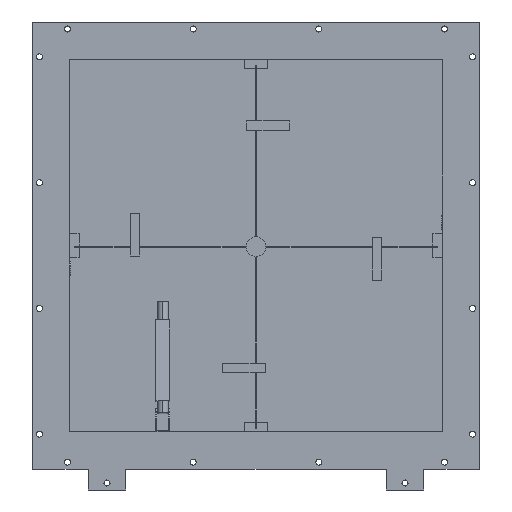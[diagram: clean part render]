
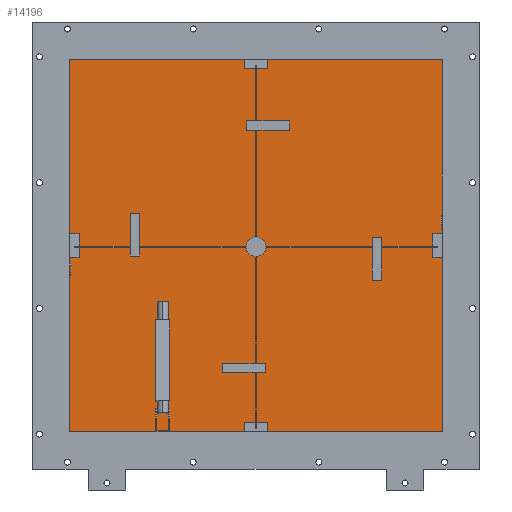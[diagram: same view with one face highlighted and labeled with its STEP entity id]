
A CAD part, front view. The second image highlights one B-rep face of the part: STEP entity #14196.
In plain terms, the highlighted planar face has unit normal (0, -1, 0).
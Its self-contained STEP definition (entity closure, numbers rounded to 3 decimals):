
#2788=DIRECTION('',(0.,0.,-1.));
#2789=VECTOR('',#2788,836.);
#2790=CARTESIAN_POINT('',(418.,70.,415.5));
#2791=LINE('',#2790,#2789);
#2796=CARTESIAN_POINT('',(0.,70.,-2.5));
#2797=DIRECTION('',(0.,1.,0.));
#2798=DIRECTION('',(0.,0.,1.));
#2799=AXIS2_PLACEMENT_3D('',#2796,#2797,#2798);
#2801=CARTESIAN_POINT('',(0.,70.,-2.5));
#2802=DIRECTION('',(0.,1.,0.));
#2803=DIRECTION('',(0.,0.,-1.));
#2804=AXIS2_PLACEMENT_3D('',#2801,#2802,#2803);
#2806=DIRECTION('',(0.,0.,-1.));
#2807=VECTOR('',#2806,92.);
#2808=CARTESIAN_POINT('',(-270.,70.,69.5));
#2809=LINE('',#2808,#2807);
#2810=DIRECTION('',(1.,0.,0.));
#2811=VECTOR('',#2810,20.);
#2812=CARTESIAN_POINT('',(-270.,70.,-22.5));
#2813=LINE('',#2812,#2811);
#2814=DIRECTION('',(0.,0.,1.));
#2815=VECTOR('',#2814,92.);
#2816=CARTESIAN_POINT('',(-250.,70.,-22.5));
#2817=LINE('',#2816,#2815);
#2818=DIRECTION('',(-1.,0.,0.));
#2819=VECTOR('',#2818,20.);
#2820=CARTESIAN_POINT('',(-250.,70.,69.5));
#2821=LINE('',#2820,#2819);
#2822=DIRECTION('',(0.,0.,-1.));
#2823=VECTOR('',#2822,20.);
#2824=CARTESIAN_POINT('',(-20.,70.,267.5));
#2825=LINE('',#2824,#2823);
#2826=DIRECTION('',(1.,0.,0.));
#2827=VECTOR('',#2826,92.);
#2828=CARTESIAN_POINT('',(-20.,70.,247.5));
#2829=LINE('',#2828,#2827);
#2830=DIRECTION('',(0.,0.,1.));
#2831=VECTOR('',#2830,20.);
#2832=CARTESIAN_POINT('',(72.,70.,247.5));
#2833=LINE('',#2832,#2831);
#2834=DIRECTION('',(-1.,0.,0.));
#2835=VECTOR('',#2834,92.);
#2836=CARTESIAN_POINT('',(72.,70.,267.5));
#2837=LINE('',#2836,#2835);
#2838=DIRECTION('',(0.,0.,-1.));
#2839=VECTOR('',#2838,92.);
#2840=CARTESIAN_POINT('',(250.,70.,17.5));
#2841=LINE('',#2840,#2839);
#2842=DIRECTION('',(1.,0.,0.));
#2843=VECTOR('',#2842,20.);
#2844=CARTESIAN_POINT('',(250.,70.,-74.5));
#2845=LINE('',#2844,#2843);
#2846=DIRECTION('',(0.,0.,1.));
#2847=VECTOR('',#2846,92.);
#2848=CARTESIAN_POINT('',(270.,70.,-74.5));
#2849=LINE('',#2848,#2847);
#2850=DIRECTION('',(-1.,0.,0.));
#2851=VECTOR('',#2850,20.);
#2852=CARTESIAN_POINT('',(270.,70.,17.5));
#2853=LINE('',#2852,#2851);
#2854=DIRECTION('',(-1.,0.,0.));
#2855=VECTOR('',#2854,92.);
#2856=CARTESIAN_POINT('',(20.,70.,-252.5));
#2857=LINE('',#2856,#2855);
#2858=DIRECTION('',(0.,0.,-1.));
#2859=VECTOR('',#2858,20.);
#2860=CARTESIAN_POINT('',(-72.,70.,-252.5));
#2861=LINE('',#2860,#2859);
#2862=DIRECTION('',(1.,0.,0.));
#2863=VECTOR('',#2862,92.);
#2864=CARTESIAN_POINT('',(-72.,70.,-272.5));
#2865=LINE('',#2864,#2863);
#2866=DIRECTION('',(0.,0.,1.));
#2867=VECTOR('',#2866,20.);
#2868=CARTESIAN_POINT('',(20.,70.,-272.5));
#2869=LINE('',#2868,#2867);
#2870=DIRECTION('',(-1.,0.,0.));
#2871=VECTOR('',#2870,836.);
#2872=CARTESIAN_POINT('',(418.,70.,-420.5));
#2873=LINE('',#2872,#2871);
#2878=DIRECTION('',(0.,0.,1.));
#2879=VECTOR('',#2878,836.);
#2880=CARTESIAN_POINT('',(-418.,70.,-420.5));
#2881=LINE('',#2880,#2879);
#2886=DIRECTION('',(1.,0.,0.));
#2887=VECTOR('',#2886,836.);
#2888=CARTESIAN_POINT('',(-418.,70.,415.5));
#2889=LINE('',#2888,#2887);
#10246=CARTESIAN_POINT('',(418.,70.,415.5));
#10247=CARTESIAN_POINT('',(418.,70.,-420.5));
#10248=VERTEX_POINT('',#10246);
#10249=VERTEX_POINT('',#10247);
#10250=CARTESIAN_POINT('',(-418.,70.,-420.5));
#10251=VERTEX_POINT('',#10250);
#10252=CARTESIAN_POINT('',(-418.,70.,415.5));
#10253=VERTEX_POINT('',#10252);
#10498=CARTESIAN_POINT('',(0.,70.,18.7));
#10499=CARTESIAN_POINT('',(0.,70.,-23.7));
#10500=VERTEX_POINT('',#10498);
#10501=VERTEX_POINT('',#10499);
#10536=CARTESIAN_POINT('',(-270.,70.,69.5));
#10537=CARTESIAN_POINT('',(-270.,70.,-22.5));
#10538=VERTEX_POINT('',#10536);
#10539=VERTEX_POINT('',#10537);
#10540=CARTESIAN_POINT('',(-250.,70.,-22.5));
#10541=VERTEX_POINT('',#10540);
#10542=CARTESIAN_POINT('',(-250.,70.,69.5));
#10543=VERTEX_POINT('',#10542);
#10544=CARTESIAN_POINT('',(-20.,70.,267.5));
#10545=CARTESIAN_POINT('',(-20.,70.,247.5));
#10546=VERTEX_POINT('',#10544);
#10547=VERTEX_POINT('',#10545);
#10548=CARTESIAN_POINT('',(72.,70.,247.5));
#10549=VERTEX_POINT('',#10548);
#10550=CARTESIAN_POINT('',(72.,70.,267.5));
#10551=VERTEX_POINT('',#10550);
#10552=CARTESIAN_POINT('',(250.,70.,17.5));
#10553=CARTESIAN_POINT('',(250.,70.,-74.5));
#10554=VERTEX_POINT('',#10552);
#10555=VERTEX_POINT('',#10553);
#10556=CARTESIAN_POINT('',(270.,70.,-74.5));
#10557=VERTEX_POINT('',#10556);
#10558=CARTESIAN_POINT('',(270.,70.,17.5));
#10559=VERTEX_POINT('',#10558);
#10560=CARTESIAN_POINT('',(20.,70.,-252.5));
#10561=CARTESIAN_POINT('',(-72.,70.,-252.5));
#10562=VERTEX_POINT('',#10560);
#10563=VERTEX_POINT('',#10561);
#10564=CARTESIAN_POINT('',(-72.,70.,-272.5));
#10565=VERTEX_POINT('',#10564);
#10566=CARTESIAN_POINT('',(20.,70.,-272.5));
#10567=VERTEX_POINT('',#10566);
#14136=CARTESIAN_POINT('',(0.,70.,0.));
#14137=DIRECTION('',(0.,1.,0.));
#14138=DIRECTION('',(0.,0.,-1.));
#14139=AXIS2_PLACEMENT_3D('',#14136,#14137,#14138);
#14140=PLANE('',#14139);
#14141=ORIENTED_EDGE('',*,*,#14126,.T.);
#14143=ORIENTED_EDGE('',*,*,#14142,.T.);
#14145=ORIENTED_EDGE('',*,*,#14144,.T.);
#14147=ORIENTED_EDGE('',*,*,#14146,.T.);
#14148=EDGE_LOOP('',(#14141,#14143,#14145,#14147));
#14149=FACE_OUTER_BOUND('',#14148,.F.);
#14151=ORIENTED_EDGE('',*,*,#14150,.F.);
#14153=ORIENTED_EDGE('',*,*,#14152,.F.);
#14154=EDGE_LOOP('',(#14151,#14153));
#14155=FACE_BOUND('',#14154,.F.);
#14157=ORIENTED_EDGE('',*,*,#14156,.T.);
#14159=ORIENTED_EDGE('',*,*,#14158,.T.);
#14161=ORIENTED_EDGE('',*,*,#14160,.T.);
#14163=ORIENTED_EDGE('',*,*,#14162,.T.);
#14164=EDGE_LOOP('',(#14157,#14159,#14161,#14163));
#14165=FACE_BOUND('',#14164,.F.);
#14167=ORIENTED_EDGE('',*,*,#14166,.T.);
#14169=ORIENTED_EDGE('',*,*,#14168,.T.);
#14171=ORIENTED_EDGE('',*,*,#14170,.T.);
#14173=ORIENTED_EDGE('',*,*,#14172,.T.);
#14174=EDGE_LOOP('',(#14167,#14169,#14171,#14173));
#14175=FACE_BOUND('',#14174,.F.);
#14177=ORIENTED_EDGE('',*,*,#14176,.T.);
#14179=ORIENTED_EDGE('',*,*,#14178,.T.);
#14181=ORIENTED_EDGE('',*,*,#14180,.T.);
#14183=ORIENTED_EDGE('',*,*,#14182,.T.);
#14184=EDGE_LOOP('',(#14177,#14179,#14181,#14183));
#14185=FACE_BOUND('',#14184,.F.);
#14187=ORIENTED_EDGE('',*,*,#14186,.T.);
#14189=ORIENTED_EDGE('',*,*,#14188,.T.);
#14191=ORIENTED_EDGE('',*,*,#14190,.T.);
#14193=ORIENTED_EDGE('',*,*,#14192,.T.);
#14194=EDGE_LOOP('',(#14187,#14189,#14191,#14193));
#14195=FACE_BOUND('',#14194,.F.);
#2800=CIRCLE('',#2799,21.2);
#2805=CIRCLE('',#2804,21.2);
#14126=EDGE_CURVE('',#10248,#10249,#2791,.T.);
#14142=EDGE_CURVE('',#10249,#10251,#2873,.T.);
#14144=EDGE_CURVE('',#10251,#10253,#2881,.T.);
#14146=EDGE_CURVE('',#10253,#10248,#2889,.T.);
#14150=EDGE_CURVE('',#10500,#10501,#2800,.T.);
#14152=EDGE_CURVE('',#10501,#10500,#2805,.T.);
#14156=EDGE_CURVE('',#10538,#10539,#2809,.T.);
#14158=EDGE_CURVE('',#10539,#10541,#2813,.T.);
#14160=EDGE_CURVE('',#10541,#10543,#2817,.T.);
#14162=EDGE_CURVE('',#10543,#10538,#2821,.T.);
#14166=EDGE_CURVE('',#10546,#10547,#2825,.T.);
#14168=EDGE_CURVE('',#10547,#10549,#2829,.T.);
#14170=EDGE_CURVE('',#10549,#10551,#2833,.T.);
#14172=EDGE_CURVE('',#10551,#10546,#2837,.T.);
#14176=EDGE_CURVE('',#10554,#10555,#2841,.T.);
#14178=EDGE_CURVE('',#10555,#10557,#2845,.T.);
#14180=EDGE_CURVE('',#10557,#10559,#2849,.T.);
#14182=EDGE_CURVE('',#10559,#10554,#2853,.T.);
#14186=EDGE_CURVE('',#10562,#10563,#2857,.T.);
#14188=EDGE_CURVE('',#10563,#10565,#2861,.T.);
#14190=EDGE_CURVE('',#10565,#10567,#2865,.T.);
#14192=EDGE_CURVE('',#10567,#10562,#2869,.T.);
#14196=ADVANCED_FACE('',(#14149,#14155,#14165,#14175,#14185,#14195),#14140,.F.);
